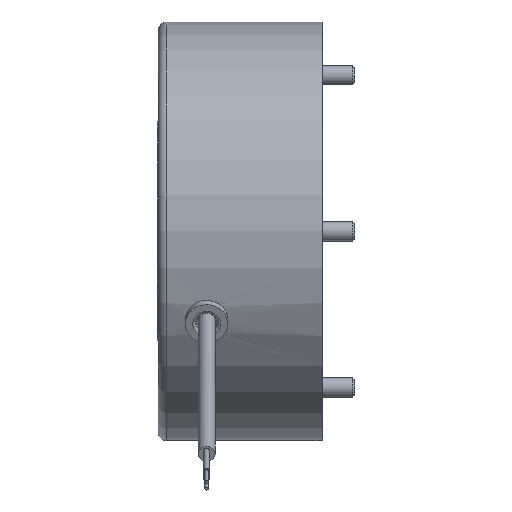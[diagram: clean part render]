
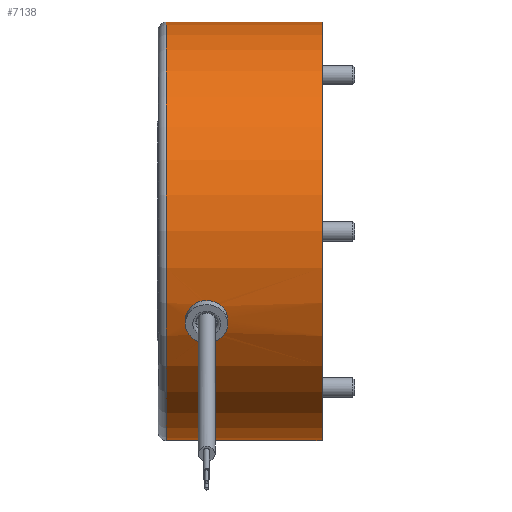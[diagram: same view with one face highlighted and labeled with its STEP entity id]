
A CAD part, front view. The second image highlights one B-rep face of the part: STEP entity #7138.
In plain terms, the highlighted cylindrical face has radius 65 mm (diameter 130 mm), a full revolution.
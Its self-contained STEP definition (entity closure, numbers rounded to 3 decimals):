
#164=B_SPLINE_CURVE_WITH_KNOTS('',3,(#11763,#11764,#11765,#11766,#11767,
#11768,#11769,#11770,#11771,#11772,#11773,#11774,#11775,#11776,#11777,#11778,
#11779,#11780,#11781),.UNSPECIFIED.,.F.,.F.,(4,2,2,2,3,2,2,2,4),(2.301,
2.493,2.685,2.877,3.068,3.26,
3.452,3.644,3.836),.UNSPECIFIED.);
#165=B_SPLINE_CURVE_WITH_KNOTS('',3,(#11784,#11785,#11786,#11787,#11788,
#11789,#11790,#11791,#11792,#11793,#11794,#11795,#11796,#11797,#11798,#11799,
#11800,#11801),.UNSPECIFIED.,.F.,.F.,(4,2,2,2,2,2,2,2,4),(0.767,
0.959,1.151,1.343,1.534,1.726,
1.918,2.109,2.301),.UNSPECIFIED.);
#403=CYLINDRICAL_SURFACE('',#7806,65.);
#563=FACE_BOUND('',#1692,.T.);
#852=CIRCLE('',#7789,65.);
#853=CIRCLE('',#7790,65.);
#861=CIRCLE('',#7800,65.);
#862=CIRCLE('',#7801,65.);
#866=CIRCLE('',#7805,65.);
#1284=FACE_OUTER_BOUND('',#1691,.T.);
#1691=EDGE_LOOP('',(#5571,#5572,#5573,#5574,#5575,#5576,#5577));
#1692=EDGE_LOOP('',(#5578,#5579,#5580,#5581,#5582,#5583));
#2117=LINE('',#11923,#2459);
#2118=LINE('',#11924,#2460);
#2119=LINE('',#11925,#2461);
#2459=VECTOR('',#9349,65.);
#2460=VECTOR('',#9350,10.);
#2461=VECTOR('',#9351,10.);
#2976=VERTEX_POINT('',#11761);
#2977=VERTEX_POINT('',#11762);
#2978=VERTEX_POINT('',#11804);
#2980=VERTEX_POINT('',#11808);
#3007=VERTEX_POINT('',#11891);
#3008=VERTEX_POINT('',#11892);
#3016=VERTEX_POINT('',#11911);
#3017=VERTEX_POINT('',#11912);
#3018=VERTEX_POINT('',#11914);
#3869=EDGE_CURVE('',#2976,#2977,#164,.T.);
#3871=EDGE_CURVE('',#2977,#2976,#165,.T.);
#3915=EDGE_CURVE('',#3007,#3008,#852,.T.);
#3916=EDGE_CURVE('',#3008,#3007,#853,.T.);
#3924=EDGE_CURVE('',#3016,#3017,#861,.T.);
#3925=EDGE_CURVE('',#3017,#3018,#862,.T.);
#3929=EDGE_CURVE('',#3018,#3016,#866,.T.);
#3930=EDGE_CURVE('',#3008,#3017,#2117,.T.);
#3931=EDGE_CURVE('',#2977,#2980,#2118,.T.);
#3932=EDGE_CURVE('',#2978,#2976,#2119,.T.);
#5571=ORIENTED_EDGE('',*,*,#3915,.F.);
#5572=ORIENTED_EDGE('',*,*,#3916,.F.);
#5573=ORIENTED_EDGE('',*,*,#3930,.T.);
#5574=ORIENTED_EDGE('',*,*,#3924,.F.);
#5575=ORIENTED_EDGE('',*,*,#3929,.F.);
#5576=ORIENTED_EDGE('',*,*,#3925,.F.);
#5577=ORIENTED_EDGE('',*,*,#3930,.F.);
#5578=ORIENTED_EDGE('',*,*,#3931,.T.);
#5579=ORIENTED_EDGE('',*,*,#3931,.F.);
#5580=ORIENTED_EDGE('',*,*,#3871,.T.);
#5581=ORIENTED_EDGE('',*,*,#3932,.F.);
#5582=ORIENTED_EDGE('',*,*,#3932,.T.);
#5583=ORIENTED_EDGE('',*,*,#3869,.T.);
#7138=ADVANCED_FACE('',(#1284,#563),#403,.T.);
#7789=AXIS2_PLACEMENT_3D('',#11893,#9313,#9314);
#7790=AXIS2_PLACEMENT_3D('',#11894,#9315,#9316);
#7800=AXIS2_PLACEMENT_3D('',#11913,#9335,#9336);
#7801=AXIS2_PLACEMENT_3D('',#11915,#9337,#9338);
#7805=AXIS2_PLACEMENT_3D('',#11921,#9345,#9346);
#7806=AXIS2_PLACEMENT_3D('',#11922,#9347,#9348);
#9313=DIRECTION('center_axis',(1.,0.,0.));
#9314=DIRECTION('ref_axis',(0.,1.,0.));
#9315=DIRECTION('center_axis',(1.,0.,0.));
#9316=DIRECTION('ref_axis',(0.,1.,0.));
#9335=DIRECTION('center_axis',(-1.,0.,0.));
#9336=DIRECTION('ref_axis',(0.,-1.,0.));
#9337=DIRECTION('center_axis',(-1.,0.,0.));
#9338=DIRECTION('ref_axis',(0.,-1.,0.));
#9345=DIRECTION('center_axis',(-1.,0.,0.));
#9346=DIRECTION('ref_axis',(0.,-1.,0.));
#9347=DIRECTION('center_axis',(1.,0.,0.));
#9348=DIRECTION('ref_axis',(0.,1.,0.));
#9349=DIRECTION('',(-1.,0.,0.));
#9350=DIRECTION('',(1.,0.,0.));
#9351=DIRECTION('',(1.,0.,0.));
#11761=CARTESIAN_POINT('',(-40.95,-58.91,-27.47));
#11762=CARTESIAN_POINT('',(-30.75,-58.91,-27.47));
#11763=CARTESIAN_POINT('Ctrl Pts',(-40.95,-58.91,-27.47));
#11764=CARTESIAN_POINT('Ctrl Pts',(-40.95,-59.18,-26.891));
#11765=CARTESIAN_POINT('Ctrl Pts',(-40.821,-59.459,
-26.268));
#11766=CARTESIAN_POINT('Ctrl Pts',(-40.299,-59.954,
-25.117));
#11767=CARTESIAN_POINT('Ctrl Pts',(-39.905,-60.172,
-24.588));
#11768=CARTESIAN_POINT('Ctrl Pts',(-38.998,-60.507,
-23.751));
#11769=CARTESIAN_POINT('Ctrl Pts',(-38.425,-60.647,
-23.387));
#11770=CARTESIAN_POINT('Ctrl Pts',(-37.171,-60.832,-22.903));
#11771=CARTESIAN_POINT('Ctrl Pts',(-36.489,-60.876,-22.784));
#11772=CARTESIAN_POINT('Ctrl Pts',(-35.85,-60.876,-22.784));
#11773=CARTESIAN_POINT('Ctrl Pts',(-35.211,-60.876,-22.784));
#11774=CARTESIAN_POINT('Ctrl Pts',(-34.529,-60.832,-22.903));
#11775=CARTESIAN_POINT('Ctrl Pts',(-33.275,-60.647,
-23.387));
#11776=CARTESIAN_POINT('Ctrl Pts',(-32.702,-60.507,-23.751));
#11777=CARTESIAN_POINT('Ctrl Pts',(-31.795,-60.172,
-24.588));
#11778=CARTESIAN_POINT('Ctrl Pts',(-31.401,-59.954,
-25.117));
#11779=CARTESIAN_POINT('Ctrl Pts',(-30.879,-59.459,-26.268));
#11780=CARTESIAN_POINT('Ctrl Pts',(-30.75,-59.18,-26.891));
#11781=CARTESIAN_POINT('Ctrl Pts',(-30.75,-58.91,-27.47));
#11784=CARTESIAN_POINT('Ctrl Pts',(-30.75,-58.91,-27.47));
#11785=CARTESIAN_POINT('Ctrl Pts',(-30.75,-58.64,-28.05));
#11786=CARTESIAN_POINT('Ctrl Pts',(-30.879,-58.342,
-28.663));
#11787=CARTESIAN_POINT('Ctrl Pts',(-31.401,-57.779,
-29.783));
#11788=CARTESIAN_POINT('Ctrl Pts',(-31.795,-57.513,
-30.289));
#11789=CARTESIAN_POINT('Ctrl Pts',(-32.702,-57.088,-31.084));
#11790=CARTESIAN_POINT('Ctrl Pts',(-33.275,-56.899,
-31.426));
#11791=CARTESIAN_POINT('Ctrl Pts',(-34.529,-56.647,
-31.878));
#11792=CARTESIAN_POINT('Ctrl Pts',(-35.211,-56.584,
-31.988));
#11793=CARTESIAN_POINT('Ctrl Pts',(-36.489,-56.584,
-31.988));
#11794=CARTESIAN_POINT('Ctrl Pts',(-37.171,-56.647,
-31.878));
#11795=CARTESIAN_POINT('Ctrl Pts',(-38.425,-56.899,
-31.426));
#11796=CARTESIAN_POINT('Ctrl Pts',(-38.998,-57.088,
-31.084));
#11797=CARTESIAN_POINT('Ctrl Pts',(-39.905,-57.513,
-30.289));
#11798=CARTESIAN_POINT('Ctrl Pts',(-40.299,-57.779,
-29.783));
#11799=CARTESIAN_POINT('Ctrl Pts',(-40.821,-58.342,
-28.663));
#11800=CARTESIAN_POINT('Ctrl Pts',(-40.95,-58.64,-28.05));
#11801=CARTESIAN_POINT('Ctrl Pts',(-40.95,-58.91,-27.47));
#11804=CARTESIAN_POINT('',(-42.45,-58.91,-27.47));
#11808=CARTESIAN_POINT('',(-29.25,-58.91,-27.47));
#11891=CARTESIAN_POINT('',(0.,65.,0.));
#11892=CARTESIAN_POINT('',(0.,-65.,0.));
#11893=CARTESIAN_POINT('Origin',(0.,0.,0.));
#11894=CARTESIAN_POINT('Origin',(0.,0.,0.));
#11911=CARTESIAN_POINT('',(-48.35,65.,0.));
#11912=CARTESIAN_POINT('',(-48.35,-65.,0.));
#11913=CARTESIAN_POINT('Origin',(-48.35,0.,0.));
#11914=CARTESIAN_POINT('',(-48.35,0.,65.));
#11915=CARTESIAN_POINT('Origin',(-48.35,0.,0.));
#11921=CARTESIAN_POINT('Origin',(-48.35,0.,0.));
#11922=CARTESIAN_POINT('Origin',(-25.425,0.,0.));
#11923=CARTESIAN_POINT('',(-25.425,-65.,0.));
#11924=CARTESIAN_POINT('',(-25.425,-58.91,-27.47));
#11925=CARTESIAN_POINT('',(-25.425,-58.91,-27.47));
